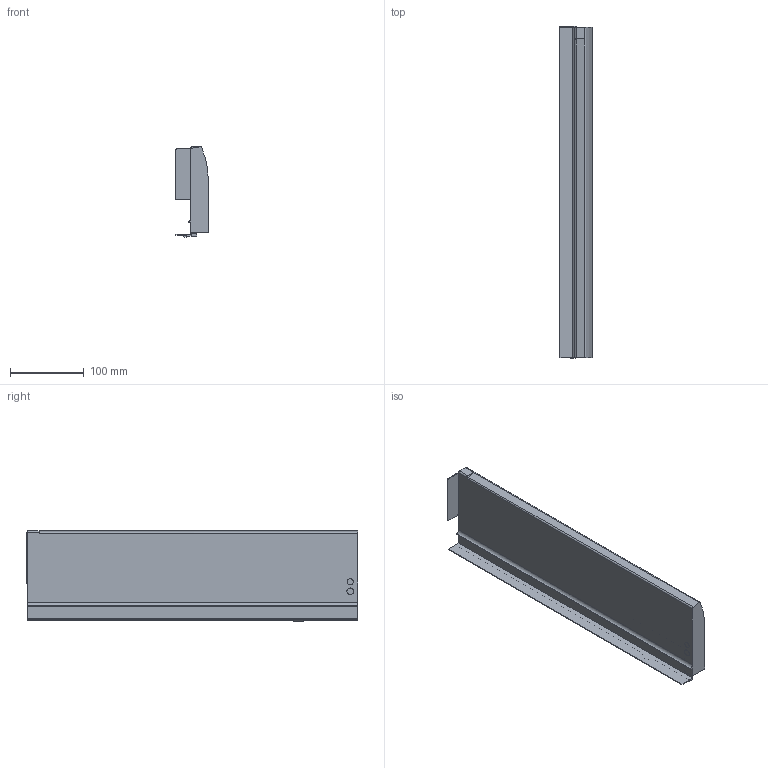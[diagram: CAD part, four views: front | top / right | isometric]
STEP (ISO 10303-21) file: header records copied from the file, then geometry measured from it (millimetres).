
FILE_DESCRIPTION (( 'STEP AP214' ), '1' );
FILE_NAME ('_IMOS_NOVA-Pro_Dekor-H122_DL_NL450_RE.step', '2010-07-14T11:01:58', ( 'grass' ), ( '' ), 'SwSTEP 2.0', 'SolidWorks 2010', '' );
FILE_SCHEMA (( 'AUTOMOTIVE_DESIGN' ));
Length unit declared in the file: millimetre
Products named in the file (1): _IMOS_NOVA-Pro_Dekor-H122_DL_NL450_RE
Bounding box: 44.3 x 448.45 x 122.49 mm (x, y, z)
Volume: 827716.9 mm3; surface area: 184680.9 mm2
Topology: 1 solids, 1 shells, 72 faces, 201 edges, 134 vertices
Faces by surface type: plane 49, cylinder 22, bspline 1
Entity records: 2349 total; most frequent: CARTESIAN_POINT 421, ORIENTED_EDGE 402, DIRECTION 390, EDGE_CURVE 201, LINE 152, VECTOR 152, VERTEX_POINT 134, AXIS2_PLACEMENT_3D 119
